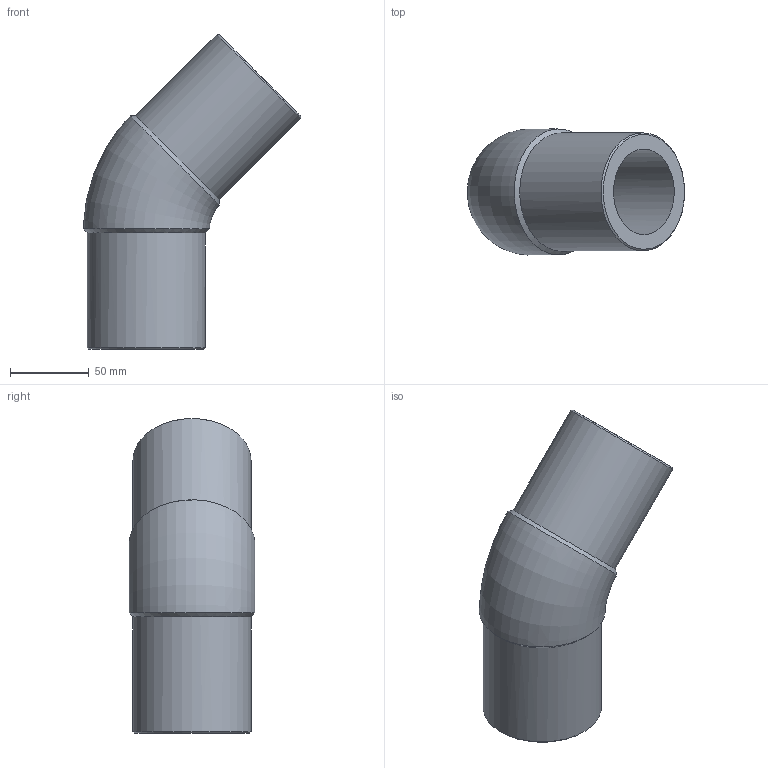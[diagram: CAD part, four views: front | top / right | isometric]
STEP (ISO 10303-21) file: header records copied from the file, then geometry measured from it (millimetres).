
FILE_DESCRIPTION(/* description */ ('Unknown'),/* implementation_level */ '2;1');
FILE_NAME(/* name */ 'G4P075H',/* time_stamp */ '2022-01-21T11:31:31+01:00',/* author */ ('Unknown'),/* organization */ ('Unknown'),/* preprocessor_version */ 'ST-DEVELOPER v18.1',/* originating_system */ 'Solid Edge',/* authorisation */ 'Unknown');
FILE_SCHEMA (('AUTOMOTIVE_DESIGN {1 0 10303 214 3 1 1}'));
Length unit declared in the file: millimetre
Products named in the file (1): G4P075H
Bounding box: 137.84 x 79.95 x 199.93 mm (x, y, z)
Volume: 454131.7 mm3; surface area: 86995.3 mm2
Topology: 1 solids, 1 shells, 12 faces, 30 edges, 20 vertices
Faces by surface type: cone 4, cylinder 4, plane 2, torus 2
Full cylindrical faces by diameter (mm): 54.4 x2, 75 x2
Entity records: 434 total; most frequent: CARTESIAN_POINT 174, DIRECTION 48, ORIENTED_EDGE 34, AXIS2_PLACEMENT_3D 24, EDGE_LOOP 23, FACE_BOUND 23, EDGE_CURVE 17, VERTEX_POINT 16
